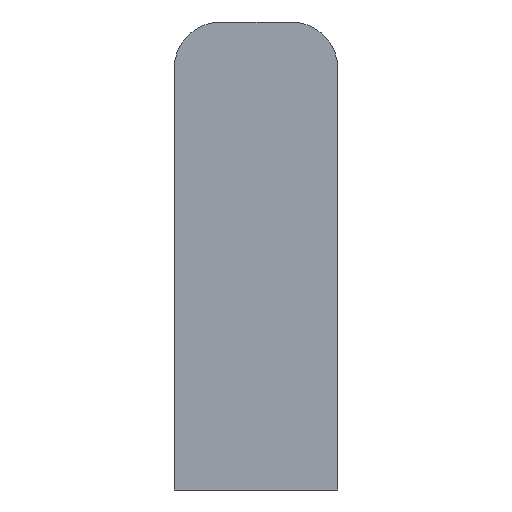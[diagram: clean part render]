
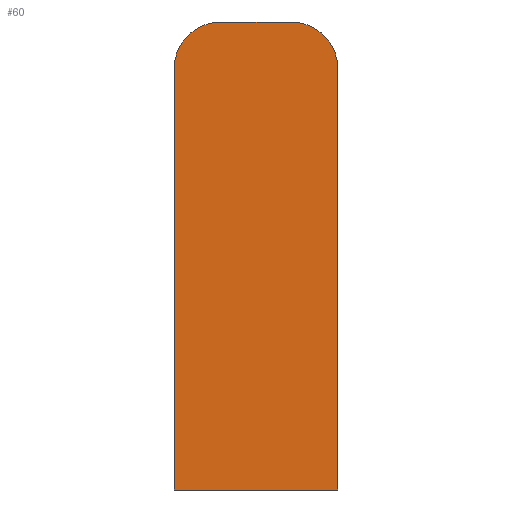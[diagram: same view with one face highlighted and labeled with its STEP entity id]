
A CAD part, front view. The second image highlights one B-rep face of the part: STEP entity #60.
In plain terms, the highlighted planar face has unit normal (0, -1, 0).
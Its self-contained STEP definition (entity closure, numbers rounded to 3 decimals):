
#13 = VECTOR ( 'NONE', #168, 1000. ) ;
#23 = CIRCLE ( 'NONE', #293, 3. ) ;
#30 = VECTOR ( 'NONE', #217, 1000. ) ;
#32 = LINE ( 'NONE', #206, #30 ) ;
#37 = VECTOR ( 'NONE', #196, 1000. ) ;
#47 = LINE ( 'NONE', #195, #37 ) ;
#60 = ADVANCED_FACE ( 'NONE', ( #350 ), #105, .F. ) ;
#74 = VERTEX_POINT ( 'NONE', #118 ) ;
#79 = VERTEX_POINT ( 'NONE', #137 ) ;
#80 = VERTEX_POINT ( 'NONE', #138 ) ;
#82 = VERTEX_POINT ( 'NONE', #139 ) ;
#83 = VERTEX_POINT ( 'NONE', #140 ) ;
#87 = VERTEX_POINT ( 'NONE', #144 ) ;
#105 = PLANE ( 'NONE',  #283 ) ;
#108 = CARTESIAN_POINT ( 'NONE',  ( 0., 0., -1.5 ) ) ;
#118 = CARTESIAN_POINT ( 'NONE',  ( 5.25, 0., -16.5 ) ) ;
#125 = DIRECTION ( 'NONE',  ( 0., 1., 0. ) ) ;
#126 = DIRECTION ( 'NONE',  ( -1., 0., 0. ) ) ;
#137 = CARTESIAN_POINT ( 'NONE',  ( 2.25, 0., 13.5 ) ) ;
#138 = CARTESIAN_POINT ( 'NONE',  ( -5.25, 0., 10.5 ) ) ;
#139 = CARTESIAN_POINT ( 'NONE',  ( 5.25, 0., 10.5 ) ) ;
#140 = CARTESIAN_POINT ( 'NONE',  ( -2.25, 0., 13.5 ) ) ;
#144 = CARTESIAN_POINT ( 'NONE',  ( -5.25, 0., -16.5 ) ) ;
#151 = CARTESIAN_POINT ( 'NONE',  ( 2.25, 0., 10.5 ) ) ;
#152 = DIRECTION ( 'NONE',  ( 0., -1., 0. ) ) ;
#153 = DIRECTION ( 'NONE',  ( -1., 0., 0. ) ) ;
#158 = CARTESIAN_POINT ( 'NONE',  ( -5.25, 0., -16.5 ) ) ;
#163 = CARTESIAN_POINT ( 'NONE',  ( 2.25, 0., 13.5 ) ) ;
#164 = DIRECTION ( 'NONE',  ( -1., 0., 0. ) ) ;
#168 = DIRECTION ( 'NONE',  ( 0., 0., -1. ) ) ;
#171 = CARTESIAN_POINT ( 'NONE',  ( -2.25, 0., 10.5 ) ) ;
#172 = DIRECTION ( 'NONE',  ( 0., -1., 0. ) ) ;
#173 = DIRECTION ( 'NONE',  ( -1., 0., 0. ) ) ;
#195 = CARTESIAN_POINT ( 'NONE',  ( 5.25, 0., -16.5 ) ) ;
#196 = DIRECTION ( 'NONE',  ( 1., 0., 0. ) ) ;
#206 = CARTESIAN_POINT ( 'NONE',  ( 5.25, 0., -16.5 ) ) ;
#217 = DIRECTION ( 'NONE',  ( 0., 0., 1. ) ) ;
#243 = EDGE_CURVE ( 'NONE', #82, #79, #325, .T. ) ;
#252 = EDGE_CURVE ( 'NONE', #79, #83, #340, .T. ) ;
#254 = EDGE_CURVE ( 'NONE', #80, #87, #342, .T. ) ;
#256 = EDGE_CURVE ( 'NONE', #83, #80, #23, .T. ) ;
#266 = EDGE_CURVE ( 'NONE', #87, #74, #47, .T. ) ;
#275 = EDGE_CURVE ( 'NONE', #74, #82, #32, .T. ) ;
#283 = AXIS2_PLACEMENT_3D ( 'NONE', #108, #125, #126 ) ;
#293 = AXIS2_PLACEMENT_3D ( 'NONE', #171, #172, #173 ) ;
#294 = AXIS2_PLACEMENT_3D ( 'NONE', #151, #152, #153 ) ;
#305 = VECTOR ( 'NONE', #164, 1000. ) ;
#313 = EDGE_LOOP ( 'NONE', ( #388, #406, #405, #401, #400, #376 ) ) ;
#325 = CIRCLE ( 'NONE', #294, 3. ) ;
#340 = LINE ( 'NONE', #163, #305 ) ;
#342 = LINE ( 'NONE', #158, #13 ) ;
#350 = FACE_OUTER_BOUND ( 'NONE', #313, .T. ) ;
#376 = ORIENTED_EDGE ( 'NONE', *, *, #266, .T. ) ;
#388 = ORIENTED_EDGE ( 'NONE', *, *, #275, .T. ) ;
#400 = ORIENTED_EDGE ( 'NONE', *, *, #254, .T. ) ;
#401 = ORIENTED_EDGE ( 'NONE', *, *, #256, .T. ) ;
#405 = ORIENTED_EDGE ( 'NONE', *, *, #252, .T. ) ;
#406 = ORIENTED_EDGE ( 'NONE', *, *, #243, .T. ) ;
